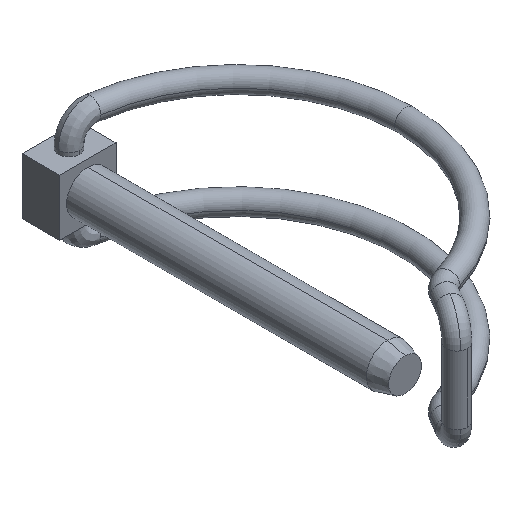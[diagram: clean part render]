
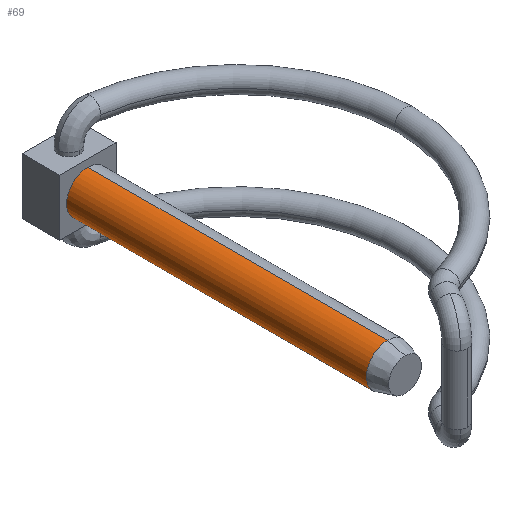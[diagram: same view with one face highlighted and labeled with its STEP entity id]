
A CAD part, isometric view. The second image highlights one B-rep face of the part: STEP entity #69.
In plain terms, the highlighted cylindrical face has radius 3 mm (diameter 6 mm), a partial arc.
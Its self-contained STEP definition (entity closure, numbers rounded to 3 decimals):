
#31 = DIRECTION ( 'NONE',  ( 0., 0., 1. ) ) ;
#69 = ADVANCED_FACE ( 'NONE', ( #1117 ), #1729, .T. ) ;
#90 = VERTEX_POINT ( 'NONE', #1446 ) ;
#121 = CARTESIAN_POINT ( 'NONE',  ( 0., -42.512, 0. ) ) ;
#128 = CIRCLE ( 'NONE', #880, 3. ) ;
#134 = ORIENTED_EDGE ( 'NONE', *, *, #1452, .T. ) ;
#156 = DIRECTION ( 'NONE',  ( 0., 1., 0. ) ) ;
#277 = EDGE_CURVE ( 'NONE', #1271, #1703, #128, .T. ) ;
#353 = CARTESIAN_POINT ( 'NONE',  ( 0., 0., -3. ) ) ;
#553 = CIRCLE ( 'NONE', #1150, 3. ) ;
#591 = CARTESIAN_POINT ( 'NONE',  ( 0., -45., 0. ) ) ;
#613 = EDGE_LOOP ( 'NONE', ( #1558, #1590, #134, #1569 ) ) ;
#696 = DIRECTION ( 'NONE',  ( 0., 1., 0. ) ) ;
#733 = CARTESIAN_POINT ( 'NONE',  ( 0., -45., 3. ) ) ;
#743 = EDGE_CURVE ( 'NONE', #90, #1131, #553, .T. ) ;
#777 = DIRECTION ( 'NONE',  ( 0., 1., 0. ) ) ;
#880 = AXIS2_PLACEMENT_3D ( 'NONE', #1454, #899, #31 ) ;
#899 = DIRECTION ( 'NONE',  ( 0., 1., 0. ) ) ;
#943 = VECTOR ( 'NONE', #777, 1000. ) ;
#1039 = CARTESIAN_POINT ( 'NONE',  ( 0., 0., 3. ) ) ;
#1117 = FACE_OUTER_BOUND ( 'NONE', #613, .T. ) ;
#1131 = VERTEX_POINT ( 'NONE', #1539 ) ;
#1150 = AXIS2_PLACEMENT_3D ( 'NONE', #121, #696, #1421 ) ;
#1203 = CARTESIAN_POINT ( 'NONE',  ( 0., -45., -3. ) ) ;
#1210 = VECTOR ( 'NONE', #156, 1000. ) ;
#1233 = AXIS2_PLACEMENT_3D ( 'NONE', #591, #1272, #1852 ) ;
#1271 = VERTEX_POINT ( 'NONE', #353 ) ;
#1272 = DIRECTION ( 'NONE',  ( 0., 1., 0. ) ) ;
#1421 = DIRECTION ( 'NONE',  ( 0., 0., 1. ) ) ;
#1446 = CARTESIAN_POINT ( 'NONE',  ( 0., -42.512, -3. ) ) ;
#1452 = EDGE_CURVE ( 'NONE', #1131, #1703, #1469, .T. ) ;
#1454 = CARTESIAN_POINT ( 'NONE',  ( 0., 0., 0. ) ) ;
#1469 = LINE ( 'NONE', #733, #1210 ) ;
#1493 = LINE ( 'NONE', #1203, #943 ) ;
#1539 = CARTESIAN_POINT ( 'NONE',  ( 0., -42.512, 3. ) ) ;
#1558 = ORIENTED_EDGE ( 'NONE', *, *, #1818, .F. ) ;
#1569 = ORIENTED_EDGE ( 'NONE', *, *, #277, .F. ) ;
#1590 = ORIENTED_EDGE ( 'NONE', *, *, #743, .T. ) ;
#1703 = VERTEX_POINT ( 'NONE', #1039 ) ;
#1729 = CYLINDRICAL_SURFACE ( 'NONE', #1233, 3. ) ;
#1818 = EDGE_CURVE ( 'NONE', #90, #1271, #1493, .T. ) ;
#1852 = DIRECTION ( 'NONE',  ( 0., 0., 1. ) ) ;
